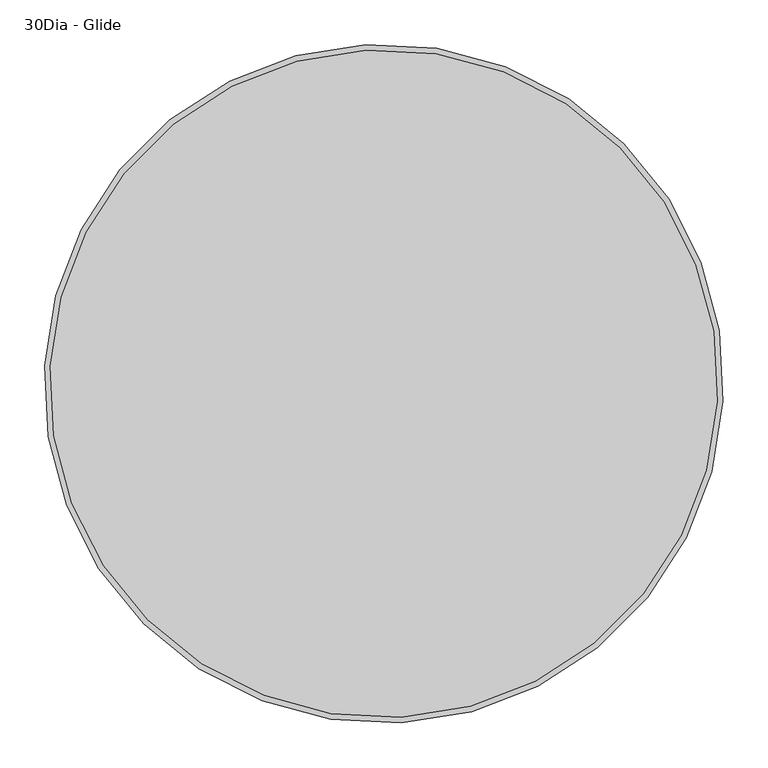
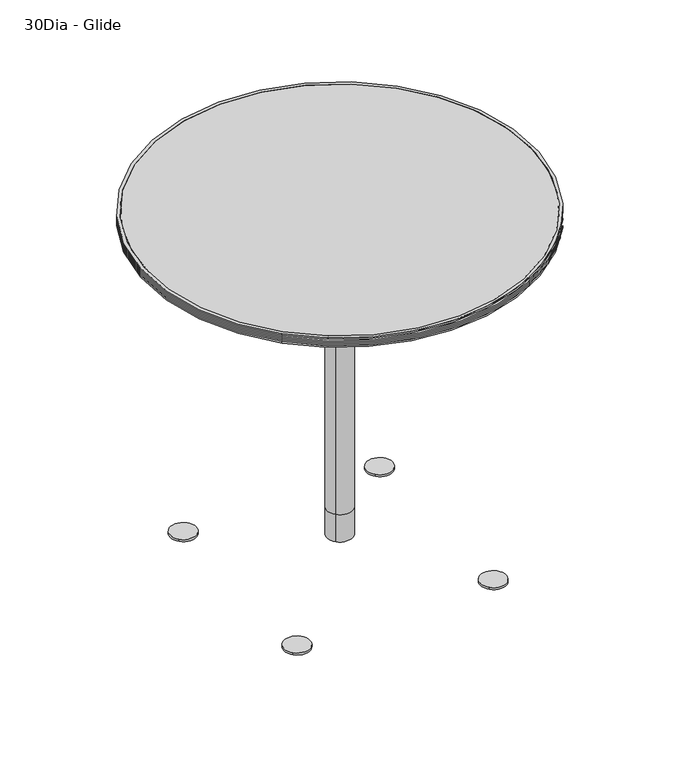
"""IFC4 building model written with IfcOpenShell, lengths in millimetres: furniture geometry, Coalesse_AM_Table_Conference_Ballet_Table_Round : 30Dia - Glide."""

from ifc_helpers import new_model, si_unit, point, frame, frame_2d, origin, origin_with_axes, origin_2d, place, context, project, spatial, polyline, circle_curve, trimmed, segment, composite_curve, outline, extrude, source, transform, mapped, element, save
from ifc_brep_helpers import plane_surface, cylinder_surface, revolved_surface, advanced_brep


def furniture_30dia_glide_d7e59fd5(model_context):
    return source(origin(), model_context, "Body", "SolidModel", [
        advanced_brep(
        [(-81.1409418, 49.3084633, 657.9865814), (-82.3248918, -51.014078, 657.9865814), (-51.0893198, -82.2496499, 657.9865814), (50.5881651, -81.8989789, 657.9865814), (81.7629451, -50.7241989, 657.9865814), (81.1309866, 49.8201728, 657.9865814), (49.871233, 81.0799264, 657.9865814), (-49.5692956, 80.8801095, 657.9865814), (-81.1409418, 49.3084633, 635.3095602), (-49.5692956, 80.8801095, 635.3095602), (49.871233, 81.0799264, 635.3095602), (81.1309866, 49.8201728, 635.3095602), (81.7629451, -50.7241989, 635.3095602), (50.5881651, -81.8989789, 635.3095602), (-51.0893198, -82.2496499, 635.3095602), (-82.3248918, -51.014078, 635.3095602), (-37.2834365, 26.9246599, 635.3095602), (-37.2834365, -26.9568769, 635.3095602), (-26.8661847, -37.3741286, 635.3095602), (27.015352, -37.3741286, 635.3095602), (38.9313594, -25.4581212, 635.3095602), (38.9313594, 25.4259042, 635.3095602), (27.015352, 37.3419116, 635.3095602), (-26.8661847, 37.3419116, 635.3095602), (-37.2834365, 26.9246599, 607.6784119), (-26.8661847, 37.3419116, 607.6784119), (27.015352, 37.3419116, 607.6784119), (38.9313594, 25.4259042, 607.6784119), (38.9313594, -25.4581212, 607.6784119), (27.015352, -37.3741286, 607.6784119), (-26.8661847, -37.3741286, 607.6784119), (-37.2834365, -26.9568769, 607.6784119)],
        [
            (0, 1, circle_curve(frame((-153.9959305, 0.0, 657.9865814), z_axis=(0.0, 0.0, -1.0), x_axis=(1.0, 0.0, 0.0)), 87.9725749)),
            (1, 2),
            (2, 3, circle_curve(frame((0.0, -154.7295322, 657.9865814), z_axis=(0.0, 0.0, -1.0), x_axis=(1.0, 0.0, 0.0)), 88.6761069)),
            (3, 4),
            (4, 5, circle_curve(frame((153.3620811, 0.0, 657.9865814), z_axis=(0.0, 0.0, -1.0), x_axis=(1.0, 0.0, 0.0)), 87.7461145)),
            (5, 6),
            (6, 7, circle_curve(frame((0.0, 156.1108358, 657.9865814), z_axis=(0.0, 0.0, -1.0), x_axis=(1.0, 0.0, 0.0)), 90.0931587)),
            (7, 0),
            (8, 9),
            (9, 10, circle_curve(frame((0.0, 156.1108358, 635.3095602), z_axis=(0.0, 0.0, 1.0), x_axis=(1.0, 0.0, 0.0)), 90.0931587)),
            (10, 11),
            (11, 12, circle_curve(frame((153.3620811, 0.0, 635.3095602), z_axis=(0.0, 0.0, 1.0), x_axis=(1.0, 0.0, 0.0)), 87.7461145)),
            (12, 13),
            (13, 14, circle_curve(frame((0.0, -154.7295322, 635.3095602), z_axis=(0.0, 0.0, 1.0), x_axis=(1.0, 0.0, 0.0)), 88.6761069)),
            (14, 15),
            (15, 8, circle_curve(frame((-153.9959305, 0.0, 635.3095602), z_axis=(0.0, 0.0, 1.0), x_axis=(1.0, 0.0, 0.0)), 87.9725749)),
            (16, 17, circle_curve(frame((-10.3426681, -0.0161085, 635.3095602), z_axis=(0.0, 0.0, 1.0), x_axis=(1.0, 0.0, 0.0)), 38.1)),
            (17, 18),
            (18, 19, circle_curve(frame((0.0745836, -10.4333602, 635.3095602), z_axis=(0.0, 0.0, 1.0), x_axis=(1.0, 0.0, 0.0)), 38.1)),
            (19, 20),
            (20, 21, circle_curve(frame((13.4893466, -0.0161085, 635.3095602), z_axis=(0.0, 0.0, 1.0), x_axis=(1.0, 0.0, 0.0)), 35.9804395)),
            (21, 22),
            (22, 23, circle_curve(frame((0.0745836, 10.4011432, 635.3095602), z_axis=(0.0, 0.0, 1.0), x_axis=(1.0, 0.0, 0.0)), 38.1)),
            (23, 16),
            (0, 8),
            (15, 1),
            (14, 2),
            (13, 3),
            (12, 4),
            (11, 5),
            (10, 6),
            (9, 7),
            (24, 25),
            (25, 26, circle_curve(frame((0.0745836, 10.4011432, 607.6784119), z_axis=(0.0, 0.0, -1.0), x_axis=(1.0, 0.0, 0.0)), 38.1)),
            (26, 27),
            (27, 28, circle_curve(frame((13.4893466, -0.0161085, 607.6784119), z_axis=(0.0, 0.0, -1.0), x_axis=(1.0, 0.0, 0.0)), 35.9804395)),
            (28, 29),
            (29, 30, circle_curve(frame((0.0745836, -10.4333602, 607.6784119), z_axis=(0.0, 0.0, -1.0), x_axis=(1.0, 0.0, 0.0)), 38.1)),
            (30, 31),
            (31, 24, circle_curve(frame((-10.3426681, -0.0161085, 607.6784119), z_axis=(0.0, 0.0, -1.0), x_axis=(1.0, 0.0, 0.0)), 38.1)),
            (31, 17),
            (16, 24),
            (30, 18),
            (29, 19),
            (28, 20),
            (27, 21),
            (26, 22),
            (25, 23),
        ],
        [
            plane_surface(frame((-66.0233556, 0.0, 657.9865814), z_axis=(0.0, 0.0, 1.0), x_axis=(0.0, -1.0, 0.0))),
            plane_surface(frame((-66.0233556, 0.0, 635.3095602), z_axis=(0.0, 0.0, -1.0), x_axis=(0.0, 1.0, 0.0))),
            revolved_surface(polyline([(-66.02335559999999, 0.0, 635.3095602), (-66.02335559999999, 0.0, 657.9865814)]), (-153.9959305, 0.0, 635.3095602), (0.0, 0.0, -1.0)),
            plane_surface(frame((-82.3248918, -51.014078, 657.9865814), z_axis=(-0.7071067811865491, -0.7071067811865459, 0.0), x_axis=(0.0, 0.0, -1.0))),
            revolved_surface(polyline([(88.6761069, -154.7295322, 635.3095602), (88.6761069, -154.7295322, 657.9865814)]), (0.0, -154.7295322, 635.3095602), (0.0, 0.0, -1.0)),
            plane_surface(frame((50.5881651, -81.8989789, 657.9865814), z_axis=(0.7071067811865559, -0.7071067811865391, 0.0), x_axis=(0.0, 0.0, -1.0))),
            revolved_surface(polyline([(241.10819560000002, 0.0, 635.3095602), (241.10819560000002, 0.0, 657.9865814)]), (153.3620811, 0.0, 635.3095602), (0.0, 0.0, -1.0)),
            plane_surface(frame((81.1309866, 49.8201728, 657.9865814), z_axis=(0.7071067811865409, 0.7071067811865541, 0.0), x_axis=(0.0, 0.0, -1.0))),
            revolved_surface(polyline([(90.0931587, 156.1108358, 635.3095602), (90.0931587, 156.1108358, 657.9865814)]), (0.0, 156.1108358, 635.3095602), (0.0, 0.0, -1.0)),
            plane_surface(frame((-49.5692956, 80.8801095, 657.9865814), z_axis=(-0.7071067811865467, 0.7071067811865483, 0.0), x_axis=(0.0, 0.0, -1.0))),
            plane_surface(frame((27.7573319, -0.0161085, 607.6784119), z_axis=(0.0, 0.0, -1.0), x_axis=(0.0, -1.0, 0.0))),
            cylinder_surface(frame((-10.3426681, -0.0161085, 607.6784119), z_axis=(0.0, 0.0, 1.0), x_axis=(1.0, 0.0, 0.0)), 38.1),
            plane_surface(frame((-37.2834365, -26.9568769, 657.9865814), z_axis=(-0.7071067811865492, -0.7071067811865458, 0.0), x_axis=(0.0, 0.0, -1.0))),
            cylinder_surface(frame((0.0745836, -10.4333602, 607.6784119), z_axis=(0.0, 0.0, 1.0), x_axis=(1.0, 0.0, 0.0)), 38.1),
            plane_surface(frame((27.015352, -37.3741286, 657.9865814), z_axis=(0.707106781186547, -0.707106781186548, 0.0), x_axis=(0.0, 0.0, -1.0))),
            cylinder_surface(frame((13.4893466, -0.0161085, 607.6784119), z_axis=(0.0, 0.0, 1.0), x_axis=(1.0, 0.0, 0.0)), 35.9804395),
            plane_surface(frame((38.9313594, 25.4259042, 657.9865814), z_axis=(0.7071067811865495, 0.7071067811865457, 0.0), x_axis=(0.0, 0.0, -1.0))),
            cylinder_surface(frame((0.0745836, 10.4011432, 607.6784119), z_axis=(0.0, 0.0, 1.0), x_axis=(1.0, 0.0, 0.0)), 38.1),
            plane_surface(frame((-26.8661847, 37.3419116, 657.9865814), z_axis=(-0.707106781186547, 0.7071067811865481, 0.0), x_axis=(0.0, 0.0, -1.0))),
        ],
        [
            (0, [[1, 2, 3, 4, 5, 6, 7, 8]]),
            (1, [[9, 10, 11, 12, 13, 14, 15, 16], [17, 18, 19, 20, 21, 22, 23, 24]]),
            (2, [[-1, 25, -16, 26]]),
            (3, [[-2, -26, -15, 27]]),
            (4, [[-3, -27, -14, 28]]),
            (5, [[-4, -28, -13, 29]]),
            (6, [[-5, -29, -12, 30]]),
            (7, [[-6, -30, -11, 31]]),
            (8, [[-7, -31, -10, 32]]),
            (9, [[-8, -32, -9, -25]]),
            (10, [[33, 34, 35, 36, 37, 38, 39, 40]]),
            (11, [[-40, 41, -17, 42]]),
            (12, [[-39, 43, -18, -41]]),
            (13, [[-38, 44, -19, -43]]),
            (14, [[-37, 45, -20, -44]]),
            (15, [[-36, 46, -21, -45]]),
            (16, [[-35, 47, -22, -46]]),
            (17, [[-34, 48, -23, -47]]),
            (18, [[-33, -42, -24, -48]]),
        ],
    ),
        extrude(outline(composite_curve([segment(trimmed(circle_curve(frame_2d((1.04e-05, -1.04e-05)), 25.3999999), [point((-17.9605018, -17.9605225))], [point((17.9605225, 17.9605018))], False, "CARTESIAN"), True, "CONTINUOUS"), segment(trimmed(circle_curve(frame_2d((1.04e-05, -1.04e-05)), 25.3999999), [point((17.9605225, 17.9605018))], [point((-17.9605018, -17.9605225))], False, "CARTESIAN"), True, "CONTINUOUS")], self_intersect=False)), frame((0.0, 0.0, 107.857915), z_axis=(0.0, 0.0, 1.0), x_axis=(1.0, 0.0, 0.0)), (0.0, 0.0, 1.0), 499.8204968),
        advanced_brep(
        [(-264.9175556, -264.9175556, 723.9), (264.9175556, 264.9175556, 723.9), (264.9175556, 264.9175556, 704.85), (-264.9175556, -264.9175556, 704.85), (-269.4087111, -269.4087111, 720.7255014), (269.4087111, 269.4087111, 720.7255014), (269.4087111, 269.4087111, 723.9), (-269.4087111, -269.4087111, 723.9), (-267.1626849, -267.1626849, 719.1372226), (267.1626849, 267.1626849, 719.1372226), (-269.4072913, -269.4072913, 717.5499574), (269.4072913, 269.4072913, 717.5499574), (-267.16794, -267.16794, 715.9572867), (267.16794, 267.16794, 715.9572867), (-269.4068502, -269.4068502, 714.3753433), (269.4068502, 269.4068502, 714.3753433), (-267.1676382, -267.1676382, 712.7853908), (267.1676382, 267.1676382, 712.7853908), (-269.4078728, -269.4078728, 711.2011743), (269.4078728, 269.4078728, 711.2011743), (-267.1671863, -267.1671863, 709.6095518), (267.1671863, 267.1671863, 709.6095518), (-269.4076836, -269.4076836, 708.0238127), (269.4076836, 269.4076836, 708.0238127), (-269.4076836, -269.4076836, 704.85), (269.4076836, 269.4076836, 704.85)],
        [
            (0, 1, circle_curve(frame((0.0, 0.0, 723.9), z_axis=(0.0, 0.0, 1.0), x_axis=(0.7071067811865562, 0.7071067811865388, 0.0)), 374.65)),
            (1, 2),
            (2, 3, circle_curve(frame((0.0, 0.0, 704.85), z_axis=(0.0, 0.0, -1.0), x_axis=(0.7071067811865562, 0.7071067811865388, 0.0)), 374.65)),
            (3, 0),
            (4, 5, circle_curve(frame((0.0, 0.0, 720.7255014), z_axis=(0.0, 0.0, 1.0), x_axis=(0.7071067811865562, 0.7071067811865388, 0.0)), 381.0014531)),
            (5, 6),
            (6, 7, circle_curve(frame((0.0, 0.0, 723.9), z_axis=(0.0, 0.0, -1.0), x_axis=(0.7071067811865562, 0.7071067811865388, 0.0)), 381.0014531)),
            (7, 4),
            (8, 9, circle_curve(frame((0.0, 0.0, 719.1372226), z_axis=(0.0, 0.0, 1.0), x_axis=(0.7071067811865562, 0.7071067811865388, 0.0)), 377.8250923)),
            (9, 5),
            (4, 8),
            (10, 11, circle_curve(frame((0.0, 0.0, 717.5499574), z_axis=(0.0, 0.0, 1.0), x_axis=(0.7071067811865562, 0.7071067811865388, 0.0)), 380.9994452)),
            (11, 9),
            (8, 10),
            (12, 13, circle_curve(frame((0.0, 0.0, 715.9572867), z_axis=(0.0, 0.0, 1.0), x_axis=(0.7071067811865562, 0.7071067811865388, 0.0)), 377.8325242)),
            (13, 11),
            (10, 12),
            (14, 15, circle_curve(frame((0.0, 0.0, 714.3753433), z_axis=(0.0, 0.0, 1.0), x_axis=(0.7071067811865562, 0.7071067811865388, 0.0)), 380.9988213)),
            (15, 13),
            (12, 14),
            (16, 17, circle_curve(frame((0.0, 0.0, 712.7853908), z_axis=(0.0, 0.0, 1.0), x_axis=(0.7071067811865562, 0.7071067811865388, 0.0)), 377.8320974)),
            (17, 15),
            (14, 16),
            (18, 19, circle_curve(frame((0.0, 0.0, 711.2011743), z_axis=(0.0, 0.0, 1.0), x_axis=(0.7071067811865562, 0.7071067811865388, 0.0)), 381.0002675)),
            (19, 17),
            (16, 18),
            (20, 21, circle_curve(frame((0.0, 0.0, 709.6095518), z_axis=(0.0, 0.0, 1.0), x_axis=(0.7071067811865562, 0.7071067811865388, 0.0)), 377.8314582)),
            (21, 19),
            (18, 20),
            (22, 23, circle_curve(frame((0.0, 0.0, 708.0238127), z_axis=(0.0, 0.0, 1.0), x_axis=(0.7071067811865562, 0.7071067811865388, 0.0)), 381.0)),
            (23, 21),
            (20, 22),
            (24, 25, circle_curve(frame((0.0, 0.0, 704.85), z_axis=(0.0, 0.0, 1.0), x_axis=(0.7071067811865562, 0.7071067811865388, 0.0)), 381.0)),
            (25, 23),
            (22, 24),
            (1, 0, circle_curve(frame((0.0, 0.0, 723.9), z_axis=(0.0, 0.0, 1.0), x_axis=(-0.7071067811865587, -0.7071067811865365, 0.0)), 374.65)),
            (3, 2, circle_curve(frame((0.0, 0.0, 704.85), z_axis=(0.0, 0.0, -1.0), x_axis=(-0.7071067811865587, -0.7071067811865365, 0.0)), 374.65)),
            (6, 7, circle_curve(frame((0.0, 0.0, 723.9), z_axis=(0.0, 0.0, 1.0), x_axis=(-0.7071067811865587, -0.7071067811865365, 0.0)), 381.0014531)),
            (5, 4, circle_curve(frame((0.0, 0.0, 720.7255014), z_axis=(0.0, 0.0, 1.0), x_axis=(-0.7071067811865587, -0.7071067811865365, 0.0)), 381.0014531)),
            (9, 8, circle_curve(frame((0.0, 0.0, 719.1372226), z_axis=(0.0, 0.0, 1.0), x_axis=(-0.7071067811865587, -0.7071067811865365, 0.0)), 377.8250923)),
            (11, 10, circle_curve(frame((0.0, 0.0, 717.5499574), z_axis=(0.0, 0.0, 1.0), x_axis=(-0.7071067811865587, -0.7071067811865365, 0.0)), 380.9994452)),
            (13, 12, circle_curve(frame((0.0, 0.0, 715.9572867), z_axis=(0.0, 0.0, 1.0), x_axis=(-0.7071067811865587, -0.7071067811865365, 0.0)), 377.8325242)),
            (15, 14, circle_curve(frame((0.0, 0.0, 714.3753433), z_axis=(0.0, 0.0, 1.0), x_axis=(-0.7071067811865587, -0.7071067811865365, 0.0)), 380.9988213)),
            (17, 16, circle_curve(frame((0.0, 0.0, 712.7853908), z_axis=(0.0, 0.0, 1.0), x_axis=(-0.7071067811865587, -0.7071067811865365, 0.0)), 377.8320974)),
            (19, 18, circle_curve(frame((0.0, 0.0, 711.2011743), z_axis=(0.0, 0.0, 1.0), x_axis=(-0.7071067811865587, -0.7071067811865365, 0.0)), 381.0002675)),
            (21, 20, circle_curve(frame((0.0, 0.0, 709.6095518), z_axis=(0.0, 0.0, 1.0), x_axis=(-0.7071067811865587, -0.7071067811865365, 0.0)), 377.8314582)),
            (23, 22, circle_curve(frame((0.0, 0.0, 708.0238127), z_axis=(0.0, 0.0, 1.0), x_axis=(-0.7071067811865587, -0.7071067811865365, 0.0)), 381.0)),
            (25, 24, circle_curve(frame((0.0, 0.0, 704.85), z_axis=(0.0, 0.0, 1.0), x_axis=(-0.7071067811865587, -0.7071067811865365, 0.0)), 381.0)),
        ],
        [
            revolved_surface(polyline([(264.9175555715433, 264.91755557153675, 704.85), (264.9175555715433, 264.91755557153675, 723.9)]), (0.0, 0.0, 723.9), (0.0, 0.0, -1.0)),
            cylinder_surface(frame((0.0, 0.0, 723.9), z_axis=(0.0, 0.0, -1.0), x_axis=(0.7071067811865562, 0.7071067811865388, 0.0)), 381.0014531),
            revolved_surface(polyline([(269.4087111, 269.4087111, 720.7255014), (267.1626849, 267.1626849, 719.1372226)]), (0.0, 0.0, 723.9), (0.0, 0.0, -1.0)),
            revolved_surface(polyline([(267.1626849, 267.1626849, 719.1372226), (269.4072913, 269.4072913, 717.5499574)]), (0.0, 0.0, 723.9), (0.0, 0.0, -1.0)),
            revolved_surface(polyline([(269.4072913, 269.4072913, 717.5499574), (267.16794, 267.16794, 715.9572867)]), (0.0, 0.0, 723.9), (0.0, 0.0, -1.0)),
            revolved_surface(polyline([(267.16794, 267.16794, 715.9572867), (269.4068502, 269.4068502, 714.3753433)]), (0.0, 0.0, 723.9), (0.0, 0.0, -1.0)),
            revolved_surface(polyline([(269.4068502, 269.4068502, 714.3753433), (267.1676382, 267.1676382, 712.7853908)]), (0.0, 0.0, 723.9), (0.0, 0.0, -1.0)),
            revolved_surface(polyline([(267.1676382, 267.1676382, 712.7853908), (269.4078728, 269.4078728, 711.2011743)]), (0.0, 0.0, 723.9), (0.0, 0.0, -1.0)),
            revolved_surface(polyline([(269.4078728, 269.4078728, 711.2011743), (267.1671863, 267.1671863, 709.6095518)]), (0.0, 0.0, 723.9), (0.0, 0.0, -1.0)),
            revolved_surface(polyline([(267.1671863, 267.1671863, 709.6095518), (269.4076836, 269.4076836, 708.0238127)]), (0.0, 0.0, 723.9), (0.0, 0.0, -1.0)),
            cylinder_surface(frame((0.0, 0.0, 723.9), z_axis=(0.0, 0.0, -1.0), x_axis=(0.7071067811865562, 0.7071067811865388, 0.0)), 381.0),
            revolved_surface(polyline([(-264.9175555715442, -264.9175555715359, 704.85), (-264.9175555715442, -264.9175555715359, 723.9)]), (0.0, 0.0, 723.9), (0.0, 0.0, -1.0)),
            plane_surface(frame((0.0, 0.0, 723.9), z_axis=(0.0, 0.0, 1.0), x_axis=(-0.7071067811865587, -0.7071067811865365, 0.0))),
            cylinder_surface(frame((0.0, 0.0, 723.9), z_axis=(0.0, 0.0, -1.0), x_axis=(-0.7071067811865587, -0.7071067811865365, 0.0)), 381.0014531),
            revolved_surface(polyline([(-269.4087111, -269.4087111, 720.7255014), (-267.1626849, -267.1626849, 719.1372226)]), (0.0, 0.0, 723.9), (0.0, 0.0, -1.0)),
            revolved_surface(polyline([(-267.1626849, -267.1626849, 719.1372226), (-269.4072913, -269.4072913, 717.5499574)]), (0.0, 0.0, 723.9), (0.0, 0.0, -1.0)),
            revolved_surface(polyline([(-269.4072913, -269.4072913, 717.5499574), (-267.16794, -267.16794, 715.9572867)]), (0.0, 0.0, 723.9), (0.0, 0.0, -1.0)),
            revolved_surface(polyline([(-267.16794, -267.16794, 715.9572867), (-269.4068502, -269.4068502, 714.3753433)]), (0.0, 0.0, 723.9), (0.0, 0.0, -1.0)),
            revolved_surface(polyline([(-269.4068502, -269.4068502, 714.3753433), (-267.1676382, -267.1676382, 712.7853908)]), (0.0, 0.0, 723.9), (0.0, 0.0, -1.0)),
            revolved_surface(polyline([(-267.1676382, -267.1676382, 712.7853908), (-269.4078728, -269.4078728, 711.2011743)]), (0.0, 0.0, 723.9), (0.0, 0.0, -1.0)),
            revolved_surface(polyline([(-269.4078728, -269.4078728, 711.2011743), (-267.1671863, -267.1671863, 709.6095518)]), (0.0, 0.0, 723.9), (0.0, 0.0, -1.0)),
            revolved_surface(polyline([(-267.1671863, -267.1671863, 709.6095518), (-269.4076836, -269.4076836, 708.0238127)]), (0.0, 0.0, 723.9), (0.0, 0.0, -1.0)),
            cylinder_surface(frame((0.0, 0.0, 723.9), z_axis=(0.0, 0.0, -1.0), x_axis=(-0.7071067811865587, -0.7071067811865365, 0.0)), 381.0),
            plane_surface(frame((0.0, 0.0, 704.85), z_axis=(0.0, 0.0, -1.0), x_axis=(-0.7071067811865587, -0.7071067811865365, 0.0))),
        ],
        [
            (0, [[1, 2, 3, 4]]),
            (1, [[5, 6, 7, 8]]),
            (2, [[9, 10, -5, 11]]),
            (3, [[12, 13, -9, 14]]),
            (4, [[15, 16, -12, 17]]),
            (5, [[18, 19, -15, 20]]),
            (6, [[21, 22, -18, 23]]),
            (7, [[24, 25, -21, 26]]),
            (8, [[27, 28, -24, 29]]),
            (9, [[30, 31, -27, 32]]),
            (10, [[33, 34, -30, 35]]),
            (11, [[36, -4, 37, -2]]),
            (12, [[38, -7], [-36, -1]]),
            (13, [[39, -8, -38, -6]]),
            (14, [[40, -11, -39, -10]]),
            (15, [[41, -14, -40, -13]]),
            (16, [[42, -17, -41, -16]]),
            (17, [[43, -20, -42, -19]]),
            (18, [[44, -23, -43, -22]]),
            (19, [[45, -26, -44, -25]]),
            (20, [[46, -29, -45, -28]]),
            (21, [[47, -32, -46, -31]]),
            (22, [[48, -35, -47, -34]]),
            (23, [[-48, -33], [-37, -3]]),
        ],
    ),
        extrude(outline(composite_curve([segment(trimmed(circle_curve(frame_2d((192.2336051, -190.6461051)), 25.4), [point((174.2730929, -208.6066174))], [point((210.1941174, -172.6855929))], False, "CARTESIAN"), True, "CONTINUOUS"), segment(trimmed(circle_curve(frame_2d((192.2336051, -190.6461051)), 25.4), [point((210.1941174, -172.6855929))], [point((174.2730929, -208.6066174))], False, "CARTESIAN"), True, "CONTINUOUS")], self_intersect=False)), origin_with_axes(), (0.0, 0.0, 1.0), 4.2904479),
        extrude(outline(composite_curve([segment(trimmed(circle_curve(frame_2d((192.2336051, 196.9961051)), 25.4), [point((174.2730929, 179.0355929))], [point((210.1941174, 214.9566174))], False, "CARTESIAN"), True, "CONTINUOUS"), segment(trimmed(circle_curve(frame_2d((192.2336051, 196.9961051)), 25.4), [point((210.1941174, 214.9566174))], [point((174.2730929, 179.0355929))], False, "CARTESIAN"), True, "CONTINUOUS")], self_intersect=False)), origin_with_axes(), (0.0, 0.0, 1.0), 4.2904479),
        extrude(outline(composite_curve([segment(trimmed(circle_curve(frame_2d((-194.6148551, -191.4398551)), 25.4), [point((-212.5753674, -209.4003674))], [point((-176.6543429, -173.4793429))], False, "CARTESIAN"), True, "CONTINUOUS"), segment(trimmed(circle_curve(frame_2d((-194.6148551, -191.4398551)), 25.4), [point((-176.6543429, -173.4793429))], [point((-212.5753674, -209.4003674))], False, "CARTESIAN"), True, "CONTINUOUS")], self_intersect=False)), origin_with_axes(), (0.0, 0.0, 1.0), 4.2904479),
        extrude(outline(composite_curve([segment(trimmed(circle_curve(frame_2d((-194.2179801, 197.3929801)), 25.4), [point((-212.1784924, 179.4324679))], [point((-176.2574679, 215.3534924))], False, "CARTESIAN"), True, "CONTINUOUS"), segment(trimmed(circle_curve(frame_2d((-194.2179801, 197.3929801)), 25.4), [point((-176.2574679, 215.3534924))], [point((-212.1784924, 179.4324679))], False, "CARTESIAN"), True, "CONTINUOUS")], self_intersect=False)), origin_with_axes(), (0.0, 0.0, 1.0), 4.2904479),
        extrude(outline(composite_curve([segment(trimmed(circle_curve(frame_2d((1.04e-05, -1.04e-05)), 25.3999999), [point((-17.9605018, -17.9605225))], [point((17.9605225, 17.9605018))], False, "CARTESIAN"), True, "CONTINUOUS"), segment(trimmed(circle_curve(frame_2d((1.04e-05, -1.04e-05)), 25.3999999), [point((17.9605225, 17.9605018))], [point((-17.9605018, -17.9605225))], False, "CARTESIAN"), True, "CONTINUOUS")], self_intersect=False)), frame((0.0, 0.0, 50.8000015), z_axis=(0.0, 0.0, 1.0), x_axis=(1.0, 0.0, 0.0)), (0.0, 0.0, 1.0), 556.8784104),
        extrude(outline(composite_curve([segment(trimmed(circle_curve(origin_2d(), 374.65), [point((-264.9175556, -264.9175556))], [point((264.9175556, 264.9175556))], False, "CARTESIAN"), True, "CONTINUOUS"), segment(trimmed(circle_curve(origin_2d(), 374.65), [point((264.9175556, 264.9175556))], [point((-264.9175556, -264.9175556))], False, "CARTESIAN"), True, "CONTINUOUS")], self_intersect=False)), frame((0.0, 0.0, 704.85), z_axis=(0.0, 0.0, 1.0), x_axis=(1.0, 0.0, 0.0)), (0.0, 0.0, 1.0), 19.05),
    ])


if __name__ == "__main__":
    model = new_model("IFC4")
    model_context = context("Model", 3, world=origin())
    ifc_project = project(units=[si_unit("LENGTHUNIT", "METRE", prefix="MILLI")], contexts=[model_context])
    site = spatial("IfcSite", under=ifc_project)
    building = spatial("IfcBuilding", under=site)
    placement = place(None, origin())
    furniture_30dia_glide_shape = furniture_30dia_glide_d7e59fd5(model_context)
    element("IfcFurniture", 1, ObjectType="Coalesse_AM_Table_Conference_Ballet_Table_Round : 30Dia - Glide", at=placement, inside=building, context=model_context, shape_type="MappedRepresentation", body=[
        mapped(furniture_30dia_glide_shape, transform((0.0, 0.0, 0.0), x_axis=(1.0, 0.0, 0.0), y_axis=(0.0, 1.0, 0.0), z_axis=(0.0, 0.0, 1.0))),
    ])
    save(model, "model.ifc")
